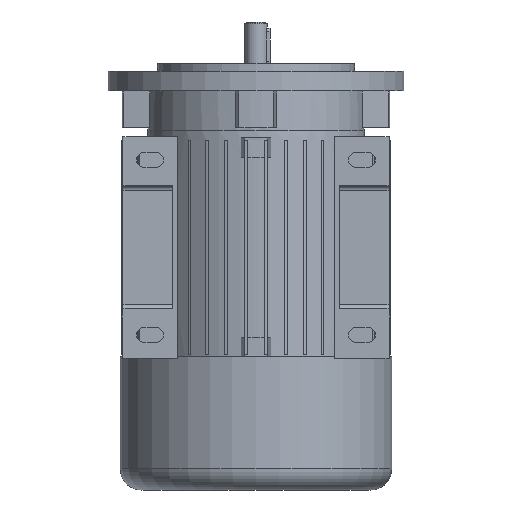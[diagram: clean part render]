
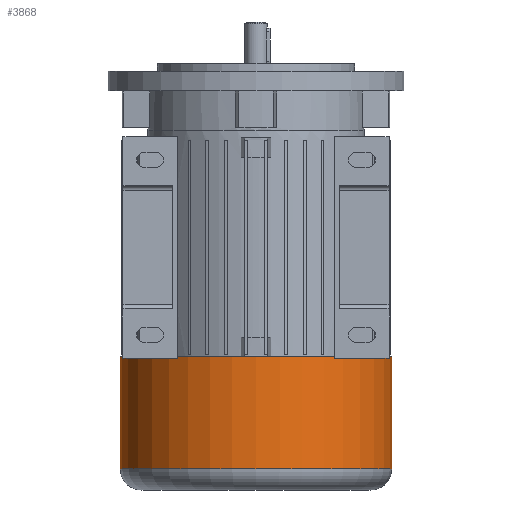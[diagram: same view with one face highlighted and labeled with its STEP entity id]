
A CAD part, front view. The second image highlights one B-rep face of the part: STEP entity #3868.
In plain terms, the highlighted cylindrical face has radius 55.1 mm (diameter 110.2 mm), a partial arc.
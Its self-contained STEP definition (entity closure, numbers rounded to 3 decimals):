
#1009 = CARTESIAN_POINT ( 'NONE',  ( 0., 0., -89.9 ) ) ;
#1013 = CARTESIAN_POINT ( 'NONE',  ( 0., 0., 0. ) ) ;
#1077 = DIRECTION ( 'NONE',  ( 1., 0., 0. ) ) ;
#1119 = CARTESIAN_POINT ( 'NONE',  ( 0., 0., -44.5 ) ) ;
#1380 = EDGE_LOOP ( 'NONE', ( #8721, #5253, #17886, #6651 ) ) ;
#1648 = CARTESIAN_POINT ( 'NONE',  ( 55.1, 0., 0. ) ) ;
#1843 = AXIS2_PLACEMENT_3D ( 'NONE', #1009, #3699, #5099 ) ;
#2474 = DIRECTION ( 'NONE',  ( 1., 0., 0. ) ) ;
#3699 = DIRECTION ( 'NONE',  ( 0., 0., 1. ) ) ;
#3868 = ADVANCED_FACE ( 'NONE', ( #4677 ), #5352, .T. ) ;
#4224 = CARTESIAN_POINT ( 'NONE',  ( -55.1, 0., -89.9 ) ) ;
#4449 = VERTEX_POINT ( 'NONE', #10711 ) ;
#4595 = LINE ( 'NONE', #1648, #13799 ) ;
#4677 = FACE_OUTER_BOUND ( 'NONE', #1380, .T. ) ;
#5099 = DIRECTION ( 'NONE',  ( 1., 0., 0. ) ) ;
#5220 = VERTEX_POINT ( 'NONE', #10479 ) ;
#5253 = ORIENTED_EDGE ( 'NONE', *, *, #12045, .T. ) ;
#5352 = CYLINDRICAL_SURFACE ( 'NONE', #16490, 55.1 ) ;
#6099 = DIRECTION ( 'NONE',  ( 0., 0., 1. ) ) ;
#6651 = ORIENTED_EDGE ( 'NONE', *, *, #7069, .F. ) ;
#7069 = EDGE_CURVE ( 'NONE', #5220, #14854, #7555, .T. ) ;
#7555 = CIRCLE ( 'NONE', #10766, 55.1 ) ;
#8721 = ORIENTED_EDGE ( 'NONE', *, *, #14390, .F. ) ;
#9444 = CARTESIAN_POINT ( 'NONE',  ( -55.1, 0., 0. ) ) ;
#10479 = CARTESIAN_POINT ( 'NONE',  ( -55.1, 0., -44.5 ) ) ;
#10711 = CARTESIAN_POINT ( 'NONE',  ( 55.1, 0., -89.9 ) ) ;
#10766 = AXIS2_PLACEMENT_3D ( 'NONE', #1119, #10895, #2474 ) ;
#10895 = DIRECTION ( 'NONE',  ( 0., 0., 1. ) ) ;
#11591 = DIRECTION ( 'NONE',  ( 0., 0., 1. ) ) ;
#12045 = EDGE_CURVE ( 'NONE', #15957, #4449, #17742, .T. ) ;
#12196 = VECTOR ( 'NONE', #11591, 1000. ) ;
#13718 = DIRECTION ( 'NONE',  ( 0., 0., 1. ) ) ;
#13799 = VECTOR ( 'NONE', #6099, 1000. ) ;
#14390 = EDGE_CURVE ( 'NONE', #15957, #5220, #16789, .T. ) ;
#14854 = VERTEX_POINT ( 'NONE', #16639 ) ;
#15957 = VERTEX_POINT ( 'NONE', #4224 ) ;
#16490 = AXIS2_PLACEMENT_3D ( 'NONE', #1013, #13718, #1077 ) ;
#16639 = CARTESIAN_POINT ( 'NONE',  ( 55.1, 0., -44.5 ) ) ;
#16789 = LINE ( 'NONE', #9444, #12196 ) ;
#17586 = EDGE_CURVE ( 'NONE', #4449, #14854, #4595, .T. ) ;
#17742 = CIRCLE ( 'NONE', #1843, 55.1 ) ;
#17886 = ORIENTED_EDGE ( 'NONE', *, *, #17586, .T. ) ;
